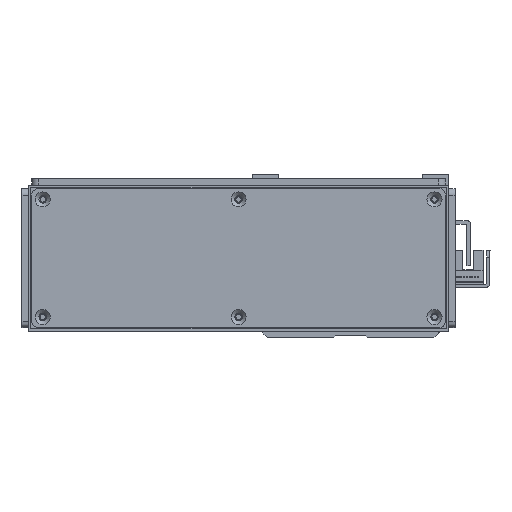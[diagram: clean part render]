
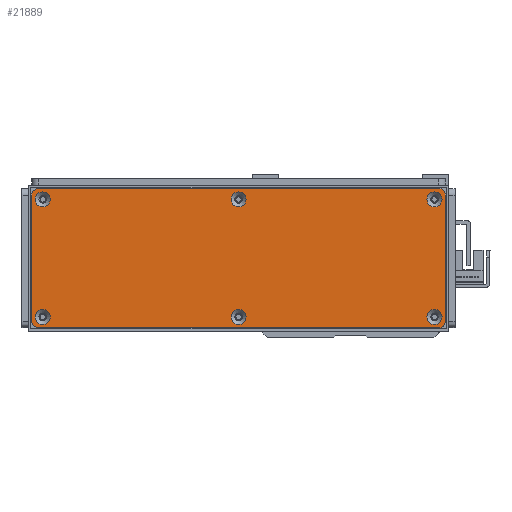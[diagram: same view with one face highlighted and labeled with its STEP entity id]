
A CAD part, left-side view. The second image highlights one B-rep face of the part: STEP entity #21889.
In plain terms, the highlighted planar face has unit normal (-1, 0, 0) as drawn and (0, 0, 1) by its records, which use the part's own axes.
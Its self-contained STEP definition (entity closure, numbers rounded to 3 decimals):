
#744=FACE_BOUND('',#4567,.T.);
#745=FACE_BOUND('',#4568,.T.);
#746=FACE_BOUND('',#4569,.T.);
#747=FACE_BOUND('',#4570,.T.);
#748=FACE_BOUND('',#4571,.T.);
#749=FACE_BOUND('',#4572,.T.);
#1298=PLANE('',#24581);
#2991=FACE_OUTER_BOUND('',#4566,.T.);
#4566=EDGE_LOOP('',(#20510,#20511,#20512,#20513,#20514,#20515,#20516,#20517));
#4567=EDGE_LOOP('',(#20518));
#4568=EDGE_LOOP('',(#20519));
#4569=EDGE_LOOP('',(#20520));
#4570=EDGE_LOOP('',(#20521));
#4571=EDGE_LOOP('',(#20522));
#4572=EDGE_LOOP('',(#20523));
#6417=LINE('',#38168,#8265);
#6420=LINE('',#38176,#8268);
#6423=LINE('',#38184,#8271);
#6426=LINE('',#38191,#8274);
#8265=VECTOR('',#31019,10.);
#8268=VECTOR('',#31028,10.);
#8271=VECTOR('',#31037,10.);
#8274=VECTOR('',#31046,10.);
#9379=CIRCLE('',#24535,3.45);
#9382=CIRCLE('',#24540,3.45);
#9385=CIRCLE('',#24545,3.45);
#9388=CIRCLE('',#24550,3.45);
#9391=CIRCLE('',#24555,3.45);
#9394=CIRCLE('',#24560,3.45);
#9401=CIRCLE('',#24570,3.);
#9402=CIRCLE('',#24573,3.);
#9403=CIRCLE('',#24576,3.);
#9404=CIRCLE('',#24579,3.);
#11396=VERTEX_POINT('',#38084);
#11399=VERTEX_POINT('',#38094);
#11402=VERTEX_POINT('',#38104);
#11405=VERTEX_POINT('',#38114);
#11408=VERTEX_POINT('',#38124);
#11411=VERTEX_POINT('',#38134);
#11422=VERTEX_POINT('',#38161);
#11423=VERTEX_POINT('',#38163);
#11424=VERTEX_POINT('',#38167);
#11425=VERTEX_POINT('',#38171);
#11426=VERTEX_POINT('',#38175);
#11427=VERTEX_POINT('',#38179);
#11428=VERTEX_POINT('',#38183);
#11429=VERTEX_POINT('',#38187);
#14412=EDGE_CURVE('',#11396,#11396,#9379,.T.);
#14417=EDGE_CURVE('',#11399,#11399,#9382,.T.);
#14422=EDGE_CURVE('',#11402,#11402,#9385,.T.);
#14427=EDGE_CURVE('',#11405,#11405,#9388,.T.);
#14432=EDGE_CURVE('',#11408,#11408,#9391,.T.);
#14437=EDGE_CURVE('',#11411,#11411,#9394,.T.);
#14451=EDGE_CURVE('',#11423,#11422,#9401,.T.);
#14453=EDGE_CURVE('',#11424,#11423,#6417,.T.);
#14455=EDGE_CURVE('',#11425,#11424,#9402,.T.);
#14457=EDGE_CURVE('',#11426,#11425,#6420,.T.);
#14459=EDGE_CURVE('',#11427,#11426,#9403,.T.);
#14461=EDGE_CURVE('',#11428,#11427,#6423,.T.);
#14463=EDGE_CURVE('',#11429,#11428,#9404,.T.);
#14465=EDGE_CURVE('',#11422,#11429,#6426,.T.);
#20510=ORIENTED_EDGE('',*,*,#14465,.T.);
#20511=ORIENTED_EDGE('',*,*,#14463,.T.);
#20512=ORIENTED_EDGE('',*,*,#14461,.T.);
#20513=ORIENTED_EDGE('',*,*,#14459,.T.);
#20514=ORIENTED_EDGE('',*,*,#14457,.T.);
#20515=ORIENTED_EDGE('',*,*,#14455,.T.);
#20516=ORIENTED_EDGE('',*,*,#14453,.T.);
#20517=ORIENTED_EDGE('',*,*,#14451,.T.);
#20518=ORIENTED_EDGE('',*,*,#14412,.T.);
#20519=ORIENTED_EDGE('',*,*,#14417,.T.);
#20520=ORIENTED_EDGE('',*,*,#14422,.T.);
#20521=ORIENTED_EDGE('',*,*,#14427,.T.);
#20522=ORIENTED_EDGE('',*,*,#14432,.T.);
#20523=ORIENTED_EDGE('',*,*,#14437,.T.);
#21889=ADVANCED_FACE('',(#2991,#744,#745,#746,#747,#748,#749),#1298,.T.);
#24535=AXIS2_PLACEMENT_3D('',#38085,#30927,#30928);
#24540=AXIS2_PLACEMENT_3D('',#38095,#30939,#30940);
#24545=AXIS2_PLACEMENT_3D('',#38105,#30951,#30952);
#24550=AXIS2_PLACEMENT_3D('',#38115,#30963,#30964);
#24555=AXIS2_PLACEMENT_3D('',#38125,#30975,#30976);
#24560=AXIS2_PLACEMENT_3D('',#38135,#30987,#30988);
#24570=AXIS2_PLACEMENT_3D('',#38164,#31014,#31015);
#24573=AXIS2_PLACEMENT_3D('',#38172,#31023,#31024);
#24576=AXIS2_PLACEMENT_3D('',#38180,#31032,#31033);
#24579=AXIS2_PLACEMENT_3D('',#38188,#31041,#31042);
#24581=AXIS2_PLACEMENT_3D('',#38192,#31047,#31048);
#30927=DIRECTION('center_axis',(0.,0.,-1.));
#30928=DIRECTION('ref_axis',(1.,0.,0.));
#30939=DIRECTION('center_axis',(0.,0.,-1.));
#30940=DIRECTION('ref_axis',(1.,0.,0.));
#30951=DIRECTION('center_axis',(0.,0.,-1.));
#30952=DIRECTION('ref_axis',(1.,0.,0.));
#30963=DIRECTION('center_axis',(0.,0.,-1.));
#30964=DIRECTION('ref_axis',(1.,0.,0.));
#30975=DIRECTION('center_axis',(0.,0.,-1.));
#30976=DIRECTION('ref_axis',(1.,0.,0.));
#30987=DIRECTION('center_axis',(0.,0.,-1.));
#30988=DIRECTION('ref_axis',(1.,0.,0.));
#31014=DIRECTION('center_axis',(0.,0.,1.));
#31015=DIRECTION('ref_axis',(0.,1.,0.));
#31019=DIRECTION('',(-1.,0.,0.));
#31023=DIRECTION('center_axis',(0.,0.,1.));
#31024=DIRECTION('ref_axis',(1.,0.,0.));
#31028=DIRECTION('',(0.,1.,0.));
#31032=DIRECTION('center_axis',(0.,0.,1.));
#31033=DIRECTION('ref_axis',(0.,-1.,0.));
#31037=DIRECTION('',(1.,0.,0.));
#31041=DIRECTION('center_axis',(0.,0.,1.));
#31042=DIRECTION('ref_axis',(-1.,0.,0.));
#31046=DIRECTION('',(0.,-1.,0.));
#31047=DIRECTION('center_axis',(0.,0.,1.));
#31048=DIRECTION('ref_axis',(1.,0.,0.));
#38084=CARTESIAN_POINT('',(-3.45,27.,1.5));
#38085=CARTESIAN_POINT('Origin',(0.,27.,1.5));
#38094=CARTESIAN_POINT('',(86.55,-27.,1.5));
#38095=CARTESIAN_POINT('Origin',(90.,-27.,1.5));
#38104=CARTESIAN_POINT('',(-93.45,27.,1.5));
#38105=CARTESIAN_POINT('Origin',(-90.,27.,1.5));
#38114=CARTESIAN_POINT('',(86.55,27.,1.5));
#38115=CARTESIAN_POINT('Origin',(90.,27.,1.5));
#38124=CARTESIAN_POINT('',(-93.45,-27.,1.5));
#38125=CARTESIAN_POINT('Origin',(-90.,-27.,1.5));
#38134=CARTESIAN_POINT('',(-3.45,-27.,1.5));
#38135=CARTESIAN_POINT('Origin',(0.,-27.,1.5));
#38161=CARTESIAN_POINT('',(-95.,29.,1.5));
#38163=CARTESIAN_POINT('',(-92.,32.,1.5));
#38164=CARTESIAN_POINT('Origin',(-92.,29.,1.5));
#38167=CARTESIAN_POINT('',(92.,32.,1.5));
#38168=CARTESIAN_POINT('',(92.,32.,1.5));
#38171=CARTESIAN_POINT('',(95.,29.,1.5));
#38172=CARTESIAN_POINT('Origin',(92.,29.,1.5));
#38175=CARTESIAN_POINT('',(95.,-29.,1.5));
#38176=CARTESIAN_POINT('',(95.,-29.,1.5));
#38179=CARTESIAN_POINT('',(92.,-32.,1.5));
#38180=CARTESIAN_POINT('Origin',(92.,-29.,1.5));
#38183=CARTESIAN_POINT('',(-92.,-32.,1.5));
#38184=CARTESIAN_POINT('',(-92.,-32.,1.5));
#38187=CARTESIAN_POINT('',(-95.,-29.,1.5));
#38188=CARTESIAN_POINT('Origin',(-92.,-29.,1.5));
#38191=CARTESIAN_POINT('',(-95.,29.,1.5));
#38192=CARTESIAN_POINT('Origin',(0.,0.,
1.5));
